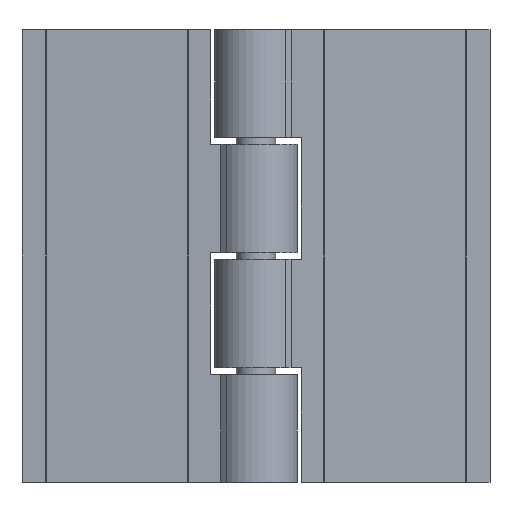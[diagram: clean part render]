
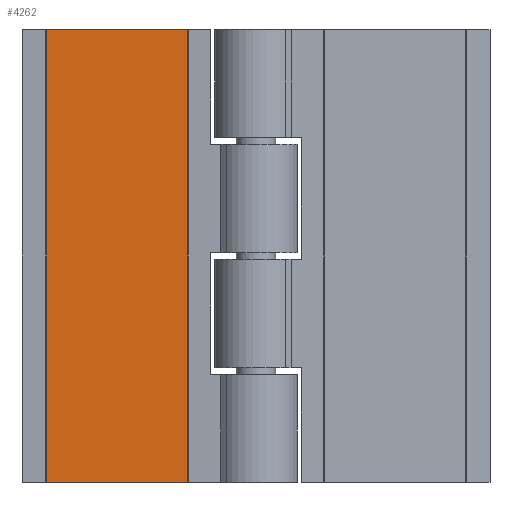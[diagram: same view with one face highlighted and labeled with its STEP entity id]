
A CAD part, front view. The second image highlights one B-rep face of the part: STEP entity #4262.
In plain terms, the highlighted planar face has unit normal (-0.044, -0.999, 0).
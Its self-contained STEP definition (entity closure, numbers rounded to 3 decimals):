
#2975 = LINE ( 'NONE', #33051, #82578 ) ;
#3872 = VERTEX_POINT ( 'NONE', #85315 ) ;
#4262 = ADVANCED_FACE ( 'NONE', ( #63001 ), #33410, .F. ) ;
#4884 = EDGE_CURVE ( 'NONE', #42355, #84539, #18488, .T. ) ;
#6190 = ORIENTED_EDGE ( 'NONE', *, *, #4884, .T. ) ;
#6388 = ORIENTED_EDGE ( 'NONE', *, *, #30387, .F. ) ;
#9278 = DIRECTION ( 'NONE',  ( 0.044, 0.999, 0. ) ) ;
#15971 = CARTESIAN_POINT ( 'NONE',  ( -27.751, -8.624, -30. ) ) ;
#17083 = VERTEX_POINT ( 'NONE', #79151 ) ;
#18488 = LINE ( 'NONE', #59276, #32405 ) ;
#19107 = ORIENTED_EDGE ( 'NONE', *, *, #66116, .T. ) ;
#25523 = DIRECTION ( 'NONE',  ( -0.999, 0.044, 0. ) ) ;
#26779 = VECTOR ( 'NONE', #33518, 1000. ) ;
#27198 = EDGE_CURVE ( 'NONE', #17083, #3872, #48801, .T. ) ;
#30387 = EDGE_CURVE ( 'NONE', #3872, #84539, #2975, .T. ) ;
#32405 = VECTOR ( 'NONE', #89331, 1000. ) ;
#33051 = CARTESIAN_POINT ( 'NONE',  ( -9.104, -9.447, 30. ) ) ;
#33410 = PLANE ( 'NONE',  #55925 ) ;
#33518 = DIRECTION ( 'NONE',  ( 0.999, -0.044, 0. ) ) ;
#42355 = VERTEX_POINT ( 'NONE', #15971 ) ;
#48801 = LINE ( 'NONE', #49774, #26779 ) ;
#49774 = CARTESIAN_POINT ( 'NONE',  ( -27.751, -8.624, 30. ) ) ;
#50942 = DIRECTION ( 'NONE',  ( 0., 0., -1. ) ) ;
#54395 = CARTESIAN_POINT ( 'NONE',  ( -9.104, -9.447, -30. ) ) ;
#55925 = AXIS2_PLACEMENT_3D ( 'NONE', #93069, #9278, #25523 ) ;
#59079 = ORIENTED_EDGE ( 'NONE', *, *, #27198, .F. ) ;
#59276 = CARTESIAN_POINT ( 'NONE',  ( -27.751, -8.624, -30. ) ) ;
#63001 = FACE_OUTER_BOUND ( 'NONE', #81248, .T. ) ;
#66116 = EDGE_CURVE ( 'NONE', #17083, #42355, #81996, .T. ) ;
#72585 = VECTOR ( 'NONE', #50942, 1000. ) ;
#79151 = CARTESIAN_POINT ( 'NONE',  ( -27.751, -8.624, 30. ) ) ;
#80855 = DIRECTION ( 'NONE',  ( 0., 0., -1. ) ) ;
#81248 = EDGE_LOOP ( 'NONE', ( #6190, #6388, #59079, #19107 ) ) ;
#81996 = LINE ( 'NONE', #82959, #72585 ) ;
#82578 = VECTOR ( 'NONE', #80855, 1000. ) ;
#82959 = CARTESIAN_POINT ( 'NONE',  ( -27.751, -8.624, 30. ) ) ;
#84539 = VERTEX_POINT ( 'NONE', #54395 ) ;
#85315 = CARTESIAN_POINT ( 'NONE',  ( -9.104, -9.447, 30. ) ) ;
#89331 = DIRECTION ( 'NONE',  ( 0.999, -0.044, 0. ) ) ;
#93069 = CARTESIAN_POINT ( 'NONE',  ( -27.751, -8.624, 30. ) ) ;
